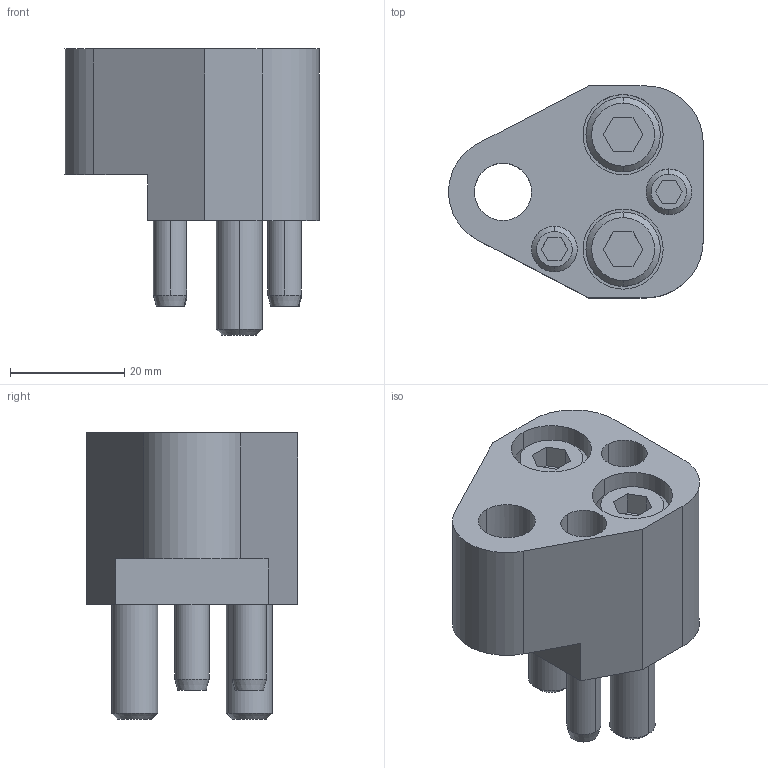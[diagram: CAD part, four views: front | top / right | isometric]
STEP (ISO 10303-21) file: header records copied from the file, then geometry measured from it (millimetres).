
FILE_DESCRIPTION(/* description */ (''),/* implementation_level */ '2;1');
FILE_NAME(/* name */ '3d_fpfr10_03780_r00.stp',/* time_stamp */ '2011-01-10T14:15:35+09:00',/* author */ ('MISUMI'),/* organization */ (''),/* preprocessor_version */ 'ST-DEVELOPER v11',/* originating_system */ 'UGS - NX 5.0',/* authorisation */ '');
FILE_SCHEMA (('CONFIG_CONTROL_DESIGN'));
Length unit declared in the file: millimetre
Products named in the file (1): 3d_fpfr10_03780_r00
Bounding box: 44.47 x 37 x 50 mm (x, y, z)
Volume: 34369.9 mm3; surface area: 15312.7 mm2
Topology: 7 solids, 7 shells, 134 faces, 298 edges, 191 vertices
Faces by surface type: plane 61, cylinder 47, cone 26
Entity records: 3858 total; most frequent: CARTESIAN_POINT 683, DIRECTION 682, ORIENTED_EDGE 596, EDGE_CURVE 298, AXIS2_PLACEMENT_3D 256, VERTEX_POINT 191, LINE 170, VECTOR 170
